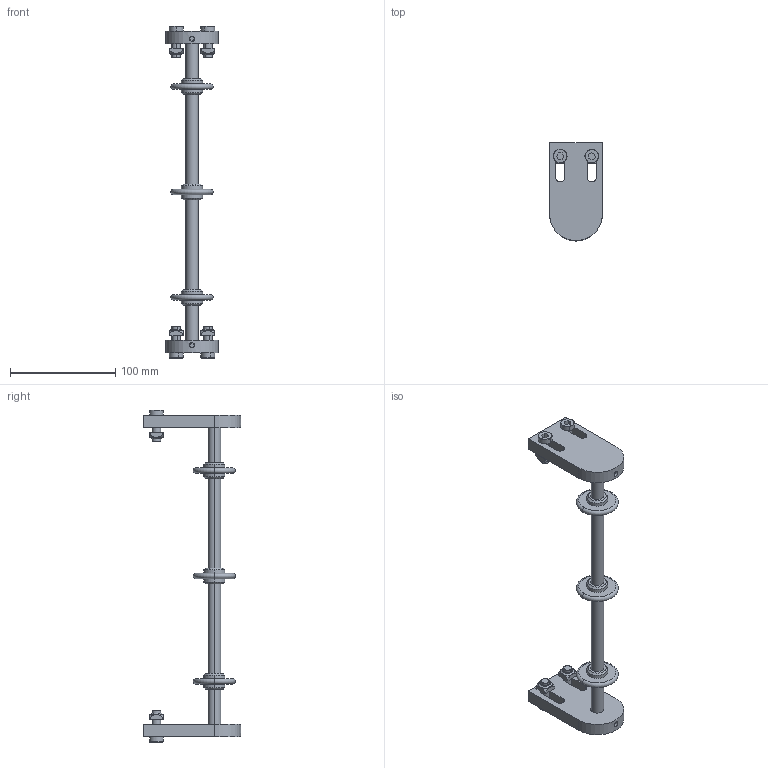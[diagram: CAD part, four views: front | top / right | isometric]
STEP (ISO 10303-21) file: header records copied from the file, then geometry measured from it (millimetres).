
FILE_DESCRIPTION (( 'STEP AP203' ), '1' );
FILE_NAME ('084.050.KSW.250.STEP', '2019-07-30T06:55:34', ( '' ), ( '' ), 'SwSTEP 2.0', 'SolidWorks 2018', '' );
FILE_SCHEMA (( 'CONFIG_CONTROL_DESIGN' ));
Length unit declared in the file: millimetre
Products named in the file (7): 084.302.000 DADI ALUSIC 13x13-1_084.302.004; Parte359^084.050.KSW.250; 084.050.KSW.250; 084.802.041; GRANI A PUNTA PIATTA UNI 5923_M6x16 UNI 5923; 084.301.000 VITI ALUSIC_084.301.004; 084.802.030
Assembly tree (16 placements, depth 2):
  084.050.KSW.250
    Parte359^084.050.KSW.250
    084.802.041  x3
    084.802.030  x2
    GRANI A PUNTA PIATTA UNI 5923_M6x16 UNI 5923  x2
    084.301.000 VITI ALUSIC_084.301.004  x4
    084.302.000 DADI ALUSIC 13x13-1_084.302.004  x4
Bounding box: 50 x 92.5 x 315 mm (x, y, z)
Volume: 156895.6 mm3; surface area: 57159.9 mm2
Topology: 16 solids, 16 shells, 288 faces, 670 edges, 432 vertices
Faces by surface type: plane 116, cylinder 82, torus 38, cone 36, bspline 16
Entity records: 4225 total; most frequent: CARTESIAN_POINT 993, DIRECTION 488, ORIENTED_EDGE 440, EDGE_CURVE 220, AXIS2_PLACEMENT_3D 191, VERTEX_POINT 142, EDGE_LOOP 112, VECTOR 106
